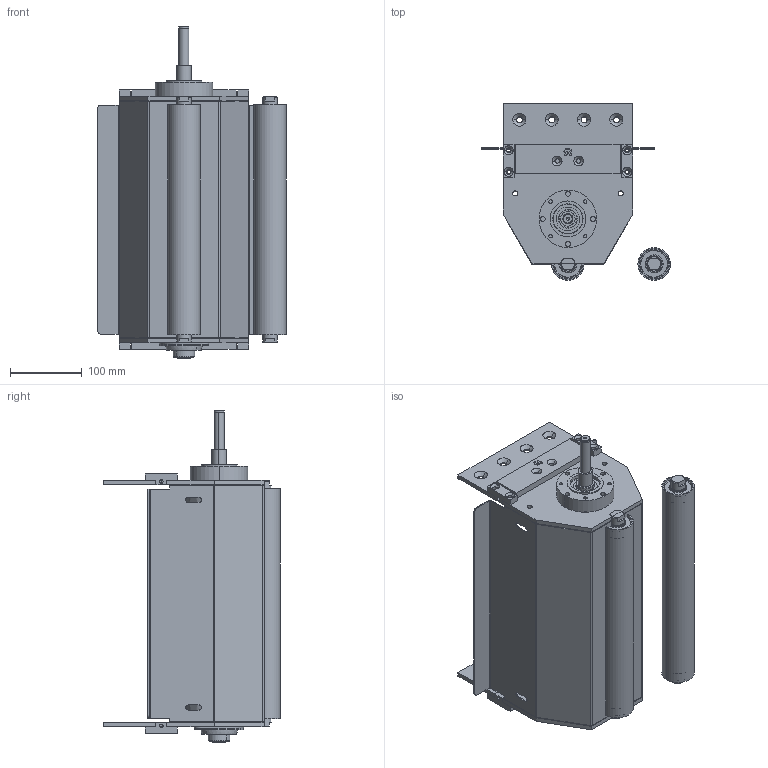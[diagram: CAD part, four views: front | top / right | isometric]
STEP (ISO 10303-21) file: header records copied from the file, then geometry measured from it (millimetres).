
FILE_DESCRIPTION (( 'STEP AP203' ), '1' );
FILE_NAME ('084.050.KCS.30.300.STEP', '2019-07-29T13:46:28', ( '' ), ( '' ), 'SwSTEP 2.0', 'SolidWorks 2018', '' );
FILE_SCHEMA (( 'CONFIG_CONTROL_DESIGN' ));
Length unit declared in the file: millimetre
Products named in the file (15): 084.802.004-1; 084.814.001-1; 084.817.017_Default<A macchina>; 084.802.009; 084.050.KCS.30.300; 084.817.020; 084.802.012_Solo centrale; 084.817.018; 084.802.003; 084.810.003; 084.817.019; 084.802.020; 084.812.003; CUSCINETTI A SFERE_6004-2RS; 084.802.021
Assembly tree (25 placements, depth 2):
  084.050.KCS.30.300
    084.817.020  x2
    084.817.017_Default<A macchina>
    084.817.018
    084.817.019  x2
    084.802.009
    084.802.021
    084.814.001-1
    084.810.003  x2
    084.802.004-1  x4
    084.802.020
    084.812.003
    084.802.003  x2
    CUSCINETTI A SFERE_6004-2RS  x4
    084.802.012_Solo centrale  x2
Bounding box: 262.5 x 245.5 x 462 mm (x, y, z)
Volume: 2364688.7 mm3; surface area: 1171804.2 mm2
Topology: 27 solids, 27 shells, 980 faces, 2432 edges, 1563 vertices
Faces by surface type: plane 418, cylinder 346, cone 138, torus 68, sphere 10
Entity records: 20625 total; most frequent: DIRECTION 3468, CARTESIAN_POINT 3270, ORIENTED_EDGE 3044, EDGE_CURVE 1522, AXIS2_PLACEMENT_3D 1320, VERTEX_POINT 980, VECTOR 828, LINE 828
